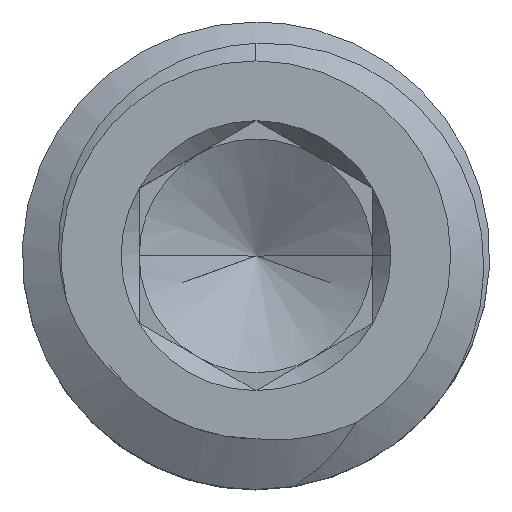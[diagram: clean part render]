
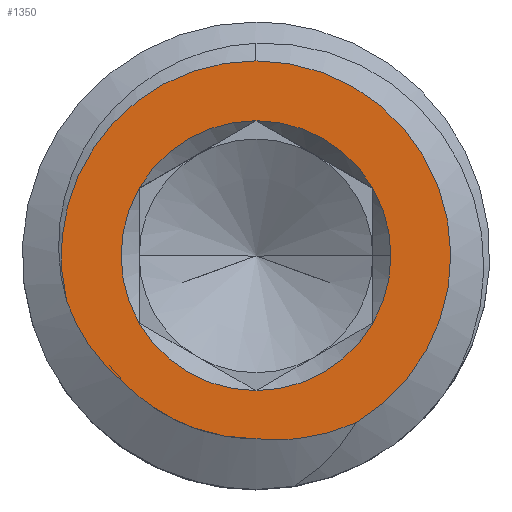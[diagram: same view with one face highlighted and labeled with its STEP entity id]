
A CAD part, top view. The second image highlights one B-rep face of the part: STEP entity #1350.
In plain terms, the highlighted planar face has unit normal (0, 0, 1).
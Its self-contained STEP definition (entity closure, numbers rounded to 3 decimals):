
#34 = CARTESIAN_POINT ( 'NONE',  ( 0., 0., 1.5 ) ) ;
#45 = DIRECTION ( 'NONE',  ( 0., 1., 0. ) ) ;
#68 = EDGE_CURVE ( 'NONE', #1910, #810, #79, .T. ) ;
#69 = B_SPLINE_CURVE_WITH_KNOTS ( 'NONE', 3,
 ( #1667, #1955, #1500, #880, #1516, #137 ),
 .UNSPECIFIED., .F., .F.,
 ( 4, 2, 4 ),
 ( 0., 0., 0.001 ),
 .UNSPECIFIED. ) ;
#79 = CIRCLE ( 'NONE', #273, 0.866 ) ;
#88 = CARTESIAN_POINT ( 'NONE',  ( 0., 0., 1.5 ) ) ;
#114 = DIRECTION ( 'NONE',  ( 0., 0., 1. ) ) ;
#117 = CIRCLE ( 'NONE', #274, 0.866 ) ;
#132 = CARTESIAN_POINT ( 'NONE',  ( -0.823, -0.839, 1.5 ) ) ;
#137 = CARTESIAN_POINT ( 'NONE',  ( -0.823, -0.839, 1.5 ) ) ;
#149 = VERTEX_POINT ( 'NONE', #334 ) ;
#185 = DIRECTION ( 'NONE',  ( 0., 0., 1. ) ) ;
#199 = DIRECTION ( 'NONE',  ( 0., 0., 1. ) ) ;
#207 = ORIENTED_EDGE ( 'NONE', *, *, #1118, .F. ) ;
#230 = ORIENTED_EDGE ( 'NONE', *, *, #1859, .F. ) ;
#242 = VERTEX_POINT ( 'NONE', #1912 ) ;
#273 = AXIS2_PLACEMENT_3D ( 'NONE', #667, #185, #1244 ) ;
#274 = AXIS2_PLACEMENT_3D ( 'NONE', #392, #114, #1902 ) ;
#293 = CARTESIAN_POINT ( 'NONE',  ( 0., -0.866, 1.5 ) ) ;
#327 = EDGE_CURVE ( 'NONE', #1298, #1648, #554, .T. ) ;
#328 = FACE_OUTER_BOUND ( 'NONE', #846, .T. ) ;
#334 = CARTESIAN_POINT ( 'NONE',  ( -0.75, 0.433, 1.5 ) ) ;
#338 = EDGE_CURVE ( 'NONE', #1798, #1773, #1220, .T. ) ;
#355 = AXIS2_PLACEMENT_3D ( 'NONE', #88, #1313, #1743 ) ;
#357 = CARTESIAN_POINT ( 'NONE',  ( -0.823, -0.839, 1.5 ) ) ;
#387 = ORIENTED_EDGE ( 'NONE', *, *, #748, .T. ) ;
#388 = CARTESIAN_POINT ( 'NONE',  ( 0., 0.866, 1.5 ) ) ;
#392 = CARTESIAN_POINT ( 'NONE',  ( 0., 0., 1.5 ) ) ;
#431 = CIRCLE ( 'NONE', #1722, 1.25 ) ;
#491 = DIRECTION ( 'NONE',  ( 0., 0., 1. ) ) ;
#504 = ORIENTED_EDGE ( 'NONE', *, *, #1090, .F. ) ;
#554 = CIRCLE ( 'NONE', #797, 1.25 ) ;
#576 = CARTESIAN_POINT ( 'NONE',  ( -1.139, -0.505, 1.5 ) ) ;
#584 = CIRCLE ( 'NONE', #1948, 0.866 ) ;
#589 = CARTESIAN_POINT ( 'NONE',  ( 0.221, -1.199, 1.5 ) ) ;
#598 = CARTESIAN_POINT ( 'NONE',  ( 0., -1.175, 1.5 ) ) ;
#607 = ORIENTED_EDGE ( 'NONE', *, *, #338, .F. ) ;
#637 = DIRECTION ( 'NONE',  ( 1., 0., 0. ) ) ;
#652 = DIRECTION ( 'NONE',  ( 1., 0., 0. ) ) ;
#662 = CARTESIAN_POINT ( 'NONE',  ( 0., 0., 1.5 ) ) ;
#667 = CARTESIAN_POINT ( 'NONE',  ( 0., 0., 1.5 ) ) ;
#671 = AXIS2_PLACEMENT_3D ( 'NONE', #662, #943, #652 ) ;
#699 = ORIENTED_EDGE ( 'NONE', *, *, #1814, .F. ) ;
#721 = CARTESIAN_POINT ( 'NONE',  ( -0.75, -0.433, 1.5 ) ) ;
#731 = CARTESIAN_POINT ( 'NONE',  ( -1.216, -0.29, 1.5 ) ) ;
#739 = AXIS2_PLACEMENT_3D ( 'NONE', #1272, #491, #1591 ) ;
#741 = AXIS2_PLACEMENT_3D ( 'NONE', #1828, #793, #45 ) ;
#748 = EDGE_CURVE ( 'NONE', #1648, #1663, #431, .T. ) ;
#768 = B_SPLINE_CURVE_WITH_KNOTS ( 'NONE', 3,
 ( #132, #1652, #576, #731 ),
 .UNSPECIFIED., .F., .F.,
 ( 4, 4 ),
 ( 0., 0.001 ),
 .UNSPECIFIED. ) ;
#793 = DIRECTION ( 'NONE',  ( 0., 0., -1. ) ) ;
#797 = AXIS2_PLACEMENT_3D ( 'NONE', #1624, #861, #1136 ) ;
#810 = VERTEX_POINT ( 'NONE', #984 ) ;
#825 = EDGE_CURVE ( 'NONE', #1174, #149, #117, .T. ) ;
#846 = EDGE_LOOP ( 'NONE', ( #1807, #1345, #387, #1012, #504 ) ) ;
#859 = ORIENTED_EDGE ( 'NONE', *, *, #825, .F. ) ;
#861 = DIRECTION ( 'NONE',  ( 0., 0., 1. ) ) ;
#869 = VERTEX_POINT ( 'NONE', #1928 ) ;
#880 = CARTESIAN_POINT ( 'NONE',  ( -0.586, -1.03, 1.5 ) ) ;
#943 = DIRECTION ( 'NONE',  ( 0., 0., 1. ) ) ;
#960 = B_SPLINE_CURVE_WITH_KNOTS ( 'NONE', 3,
 ( #1655, #1627, #589, #598 ),
 .UNSPECIFIED., .F., .F.,
 ( 4, 4 ),
 ( 0., 0.001 ),
 .UNSPECIFIED. ) ;
#984 = CARTESIAN_POINT ( 'NONE',  ( 0.866, 0., 1.5 ) ) ;
#1010 = DIRECTION ( 'NONE',  ( 0., 0., 1. ) ) ;
#1012 = ORIENTED_EDGE ( 'NONE', *, *, #1075, .F. ) ;
#1025 = CARTESIAN_POINT ( 'NONE',  ( -1.216, -0.29, 1.5 ) ) ;
#1074 = CIRCLE ( 'NONE', #739, 0.866 ) ;
#1075 = EDGE_CURVE ( 'NONE', #1572, #1663, #768, .T. ) ;
#1090 = EDGE_CURVE ( 'NONE', #242, #1572, #69, .T. ) ;
#1118 = EDGE_CURVE ( 'NONE', #1773, #1910, #1446, .T. ) ;
#1136 = DIRECTION ( 'NONE',  ( 0., -1., 0. ) ) ;
#1174 = VERTEX_POINT ( 'NONE', #388 ) ;
#1186 = DIRECTION ( 'NONE',  ( 0., 0., 1. ) ) ;
#1199 = CARTESIAN_POINT ( 'NONE',  ( 0.644, -1.071, 1.5 ) ) ;
#1209 = ORIENTED_EDGE ( 'NONE', *, *, #68, .F. ) ;
#1220 = CIRCLE ( 'NONE', #355, 0.866 ) ;
#1228 = PLANE ( 'NONE',  #741 ) ;
#1243 = EDGE_CURVE ( 'NONE', #1298, #242, #960, .T. ) ;
#1244 = DIRECTION ( 'NONE',  ( 1., 0., 0. ) ) ;
#1250 = CARTESIAN_POINT ( 'NONE',  ( 0.75, -0.433, 1.5 ) ) ;
#1272 = CARTESIAN_POINT ( 'NONE',  ( 0., 0., 1.5 ) ) ;
#1298 = VERTEX_POINT ( 'NONE', #1199 ) ;
#1313 = DIRECTION ( 'NONE',  ( 0., 0., 1. ) ) ;
#1345 = ORIENTED_EDGE ( 'NONE', *, *, #327, .T. ) ;
#1350 = ADVANCED_FACE ( 'NONE', ( #1554, #328 ), #1228, .F. ) ;
#1363 = CARTESIAN_POINT ( 'NONE',  ( 0., 0., 1.5 ) ) ;
#1446 = CIRCLE ( 'NONE', #1695, 0.866 ) ;
#1500 = CARTESIAN_POINT ( 'NONE',  ( -0.304, -1.145, 1.5 ) ) ;
#1510 = ORIENTED_EDGE ( 'NONE', *, *, #1634, .F. ) ;
#1516 = CARTESIAN_POINT ( 'NONE',  ( -0.714, -0.946, 1.5 ) ) ;
#1531 = CARTESIAN_POINT ( 'NONE',  ( 0., 1.25, 1.5 ) ) ;
#1554 = FACE_BOUND ( 'NONE', #1706, .T. ) ;
#1572 = VERTEX_POINT ( 'NONE', #357 ) ;
#1591 = DIRECTION ( 'NONE',  ( 1., 0., 0. ) ) ;
#1624 = CARTESIAN_POINT ( 'NONE',  ( 0., 0., 1.5 ) ) ;
#1627 = CARTESIAN_POINT ( 'NONE',  ( 0.444, -1.162, 1.5 ) ) ;
#1634 = EDGE_CURVE ( 'NONE', #869, #1174, #584, .T. ) ;
#1648 = VERTEX_POINT ( 'NONE', #1531 ) ;
#1652 = CARTESIAN_POINT ( 'NONE',  ( -1.005, -0.698, 1.5 ) ) ;
#1655 = CARTESIAN_POINT ( 'NONE',  ( 0.644, -1.071, 1.5 ) ) ;
#1663 = VERTEX_POINT ( 'NONE', #1025 ) ;
#1667 = CARTESIAN_POINT ( 'NONE',  ( 0., -1.175, 1.5 ) ) ;
#1684 = CIRCLE ( 'NONE', #671, 0.866 ) ;
#1695 = AXIS2_PLACEMENT_3D ( 'NONE', #1816, #1186, #1937 ) ;
#1706 = EDGE_LOOP ( 'NONE', ( #859, #1510, #699, #1209, #207, #607, #230 ) ) ;
#1722 = AXIS2_PLACEMENT_3D ( 'NONE', #1363, #1010, #1770 ) ;
#1743 = DIRECTION ( 'NONE',  ( 1., 0., 0. ) ) ;
#1770 = DIRECTION ( 'NONE',  ( 0., -1., 0. ) ) ;
#1773 = VERTEX_POINT ( 'NONE', #293 ) ;
#1798 = VERTEX_POINT ( 'NONE', #721 ) ;
#1807 = ORIENTED_EDGE ( 'NONE', *, *, #1243, .F. ) ;
#1814 = EDGE_CURVE ( 'NONE', #810, #869, #1684, .T. ) ;
#1816 = CARTESIAN_POINT ( 'NONE',  ( 0., 0., 1.5 ) ) ;
#1828 = CARTESIAN_POINT ( 'NONE',  ( 0., 0., 1.5 ) ) ;
#1859 = EDGE_CURVE ( 'NONE', #149, #1798, #1074, .T. ) ;
#1902 = DIRECTION ( 'NONE',  ( 1., 0., 0. ) ) ;
#1910 = VERTEX_POINT ( 'NONE', #1250 ) ;
#1912 = CARTESIAN_POINT ( 'NONE',  ( 0., -1.175, 1.5 ) ) ;
#1928 = CARTESIAN_POINT ( 'NONE',  ( 0.75, 0.433, 1.5 ) ) ;
#1937 = DIRECTION ( 'NONE',  ( 1., 0., 0. ) ) ;
#1948 = AXIS2_PLACEMENT_3D ( 'NONE', #34, #199, #637 ) ;
#1955 = CARTESIAN_POINT ( 'NONE',  ( -0.153, -1.175, 1.5 ) ) ;
